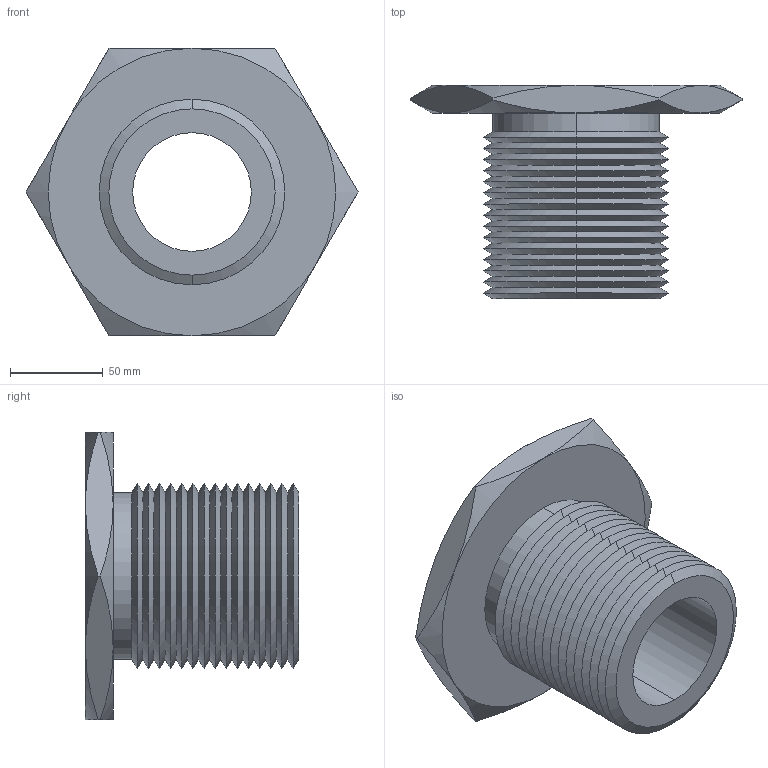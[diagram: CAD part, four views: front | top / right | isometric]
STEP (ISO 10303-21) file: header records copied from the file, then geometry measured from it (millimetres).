
FILE_DESCRIPTION (( 'STEP AP203' ), '1' );
FILE_NAME ('63302.W0100_M64x4.step', '2013-12-08T11:32:15', ( 'User' ), ( '' ), 'SwSTEP 2.0', 'SolidWorks 2009', '' );
FILE_SCHEMA (( 'CONFIG_CONTROL_DESIGN' ));
Length unit declared in the file: millimetre
Products named in the file (1): 63302.W0100_M64x4
Bounding box: 178.98 x 115 x 155 mm (x, y, z)
Volume: 631388.7 mm3; surface area: 120379.5 mm2
Topology: 1 solids, 1 shells, 87 faces, 178 edges, 94 vertices
Faces by surface type: cone 74, plane 9, cylinder 4
Entity records: 2479 total; most frequent: CARTESIAN_POINT 584, DIRECTION 412, ORIENTED_EDGE 356, EDGE_CURVE 178, AXIS2_PLACEMENT_3D 170, VERTEX_POINT 94, EDGE_LOOP 90, ADVANCED_FACE 87
